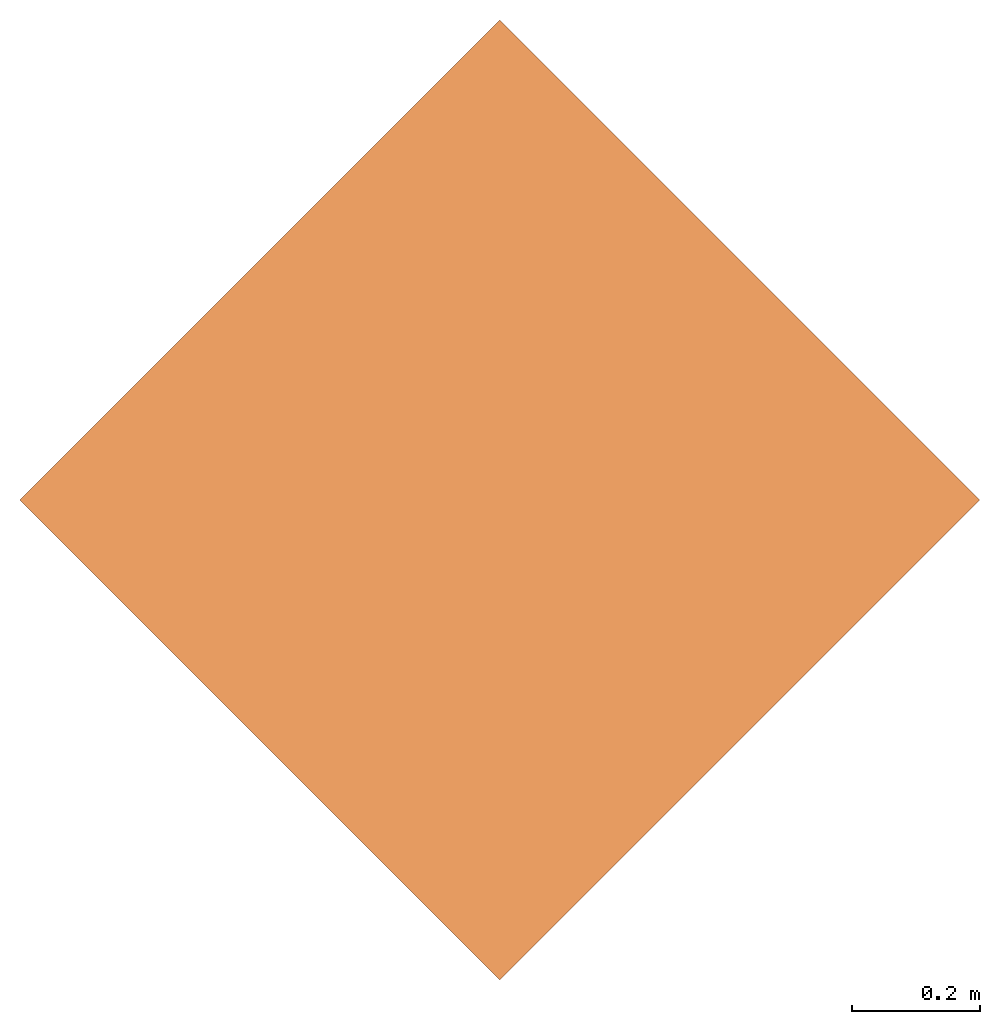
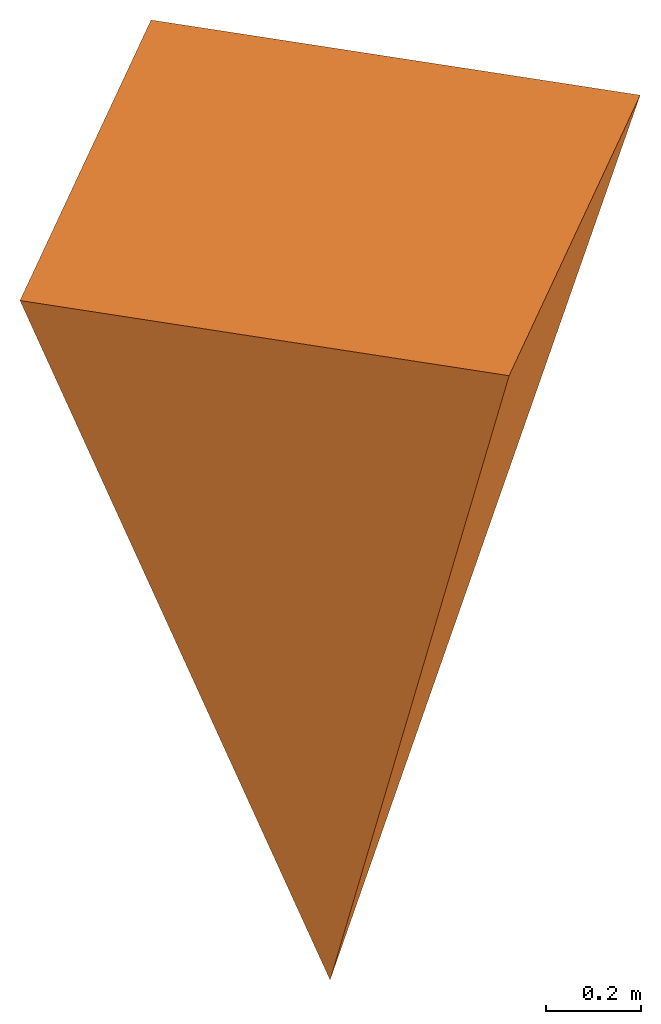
# Not in any storey: 1 proxy.
"""IFC4 building model written with IfcOpenShell, lengths in metres."""

from ifc_helpers import new_model, entity, si_unit, converted_unit, derived_unit, frame, origin, origin_with_axes, place, context, subcontext, project, spatial, faceted_brep, source, transform, mapped, element, save


model = new_model("IFC4")

# Units and contexts
model_context = context("Model", 3, precision=1e-05, world=origin())
body_context = subcontext(model_context, "Body", "Model", "MODEL_VIEW")
ifc_project = project(units=[si_unit("LENGTHUNIT", "METRE"), si_unit("AREAUNIT", "SQUARE_METRE"), si_unit("VOLUMEUNIT", "CUBIC_METRE"), si_unit("MASSUNIT", "GRAM", prefix="KILO"), converted_unit("PLANEANGLEUNIT", "DEGREE", entity("IfcPlaneAngleMeasure", 0.0174532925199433), si_unit("PLANEANGLEUNIT", "RADIAN"), dimensions=[0, 0, 0, 0, 0, 0, 0]), derived_unit("THERMALTRANSMITTANCEUNIT", [(si_unit("POWERUNIT", "WATT"), 1), (si_unit("THERMODYNAMICTEMPERATUREUNIT", "KELVIN"), -1), (si_unit("LENGTHUNIT", "METRE"), -2)]), derived_unit("VOLUMETRICFLOWRATEUNIT", [(si_unit("LENGTHUNIT", "METRE"), 3), (converted_unit("TIMEUNIT", "hour", entity("IfcTimeMeasure", 3600.0), si_unit("TIMEUNIT", "SECOND"), dimensions=[0, 0, 1, 0, 0, 0, 0]), -1), (si_unit("LENGTHUNIT", "METRE"), -1)])], contexts=[model_context])

# Building
building_placement = place(None, origin())
building = spatial("IfcBuilding", under=ifc_project, at=building_placement, Name="Modellreferenzen", CompositionType="ELEMENT")

# Proxy
shared_shape = source(origin_with_axes(), body_context, "Body", "Brep", [
    faceted_brep([(0.75, 0.75, 0.0), (0.75, 1.5, 2.0), (0.0, 0.75, 2.0), (1.5, 0.75, 2.0), (0.75, 0.0, 2.0)], [[[0, 1, 2]], [[0, 3, 1]], [[0, 4, 3]], [[0, 2, 4]], [[2, 1, 3, 4]]], orient=[[False], [False], [False], [False], [False]]),
])
proxy_placement = place(building_placement, frame((-0.75, -5.75, 0.0)))
element("IfcBuildingElementProxy", 1, at=proxy_placement, inside=building, Name="Nullpunkt", context=body_context, shape_type="MappedRepresentation", body=[
    mapped(shared_shape, transform((0.0, 0.0, 0.0), x_axis=(1.0, 0.0, 0.0), y_axis=(0.0, 1.0, 0.0), z_axis=(0.0, 0.0, 1.0), scale=1.0)),
])

save(model, "model.ifc")
